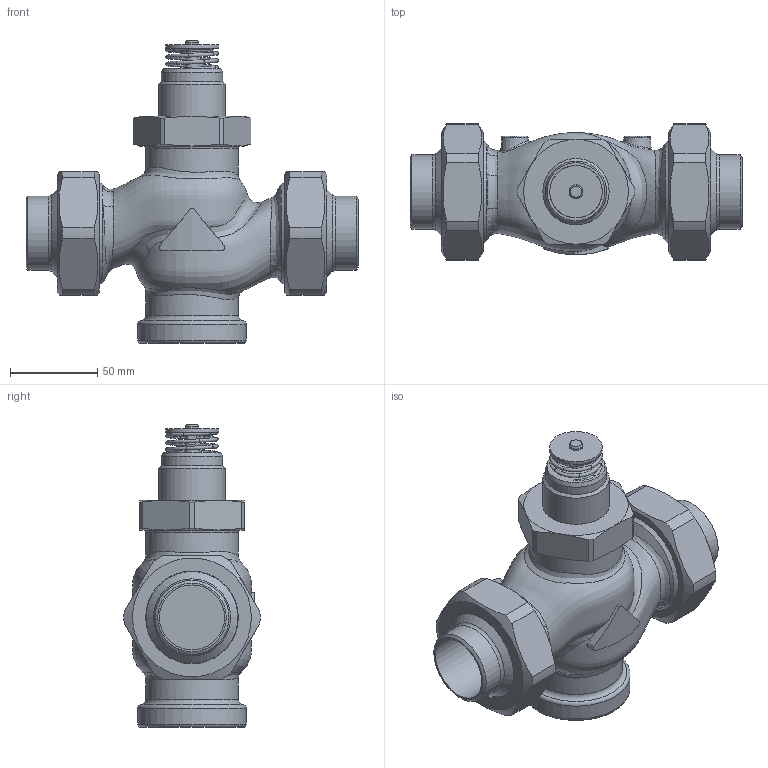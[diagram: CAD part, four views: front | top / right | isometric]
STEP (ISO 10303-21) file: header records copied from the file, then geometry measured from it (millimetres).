
FILE_DESCRIPTION(/* description */ (''),/* implementation_level */ '2;1');
FILE_NAME(/* name */ 'rv122r_dn32_W.stp',/* time_stamp */ '2012-05-31T13:05:33+02:00',/* author */ ('KLIMES'),/* organization */ ('LDM'),/* preprocessor_version */ 'ST-DEVELOPER v11',/* originating_system */ 'SIEMENS PLM Software NX 7.0',/* authorisation */ '');
FILE_SCHEMA (('CONFIG_CONTROL_DESIGN'));
Length unit declared in the file: millimetre
Products named in the file (1): klim104Evo9x
Bounding box: 190 x 77.97 x 173.4 mm (x, y, z)
Volume: 129534.7 mm3; surface area: 106352.6 mm2
Topology: 6 solids, 7 shells, 193 faces, 461 edges, 293 vertices
Faces by surface type: plane 58, cylinder 53, cone 38, torus 28, bspline 16
Full cylindrical faces by diameter (mm): 8 x2, 24.5 x1, 30 x1, 35 x1, 37.2 x2, 38 x1, 42.4 x2, 44 x2, 52.6 x2, 53 x4, 56 x2, 56.2 x2, 56.656 x2, 59.614 x2, 62 x1
Entity records: 12380 total; most frequent: CARTESIAN_POINT 8540, DIRECTION 757, ORIENTED_EDGE 676, AXIS2_PLACEMENT_3D 349, EDGE_CURVE 338, EDGE_LOOP 299, VERTEX_POINT 251, FACE_BOUND 206
